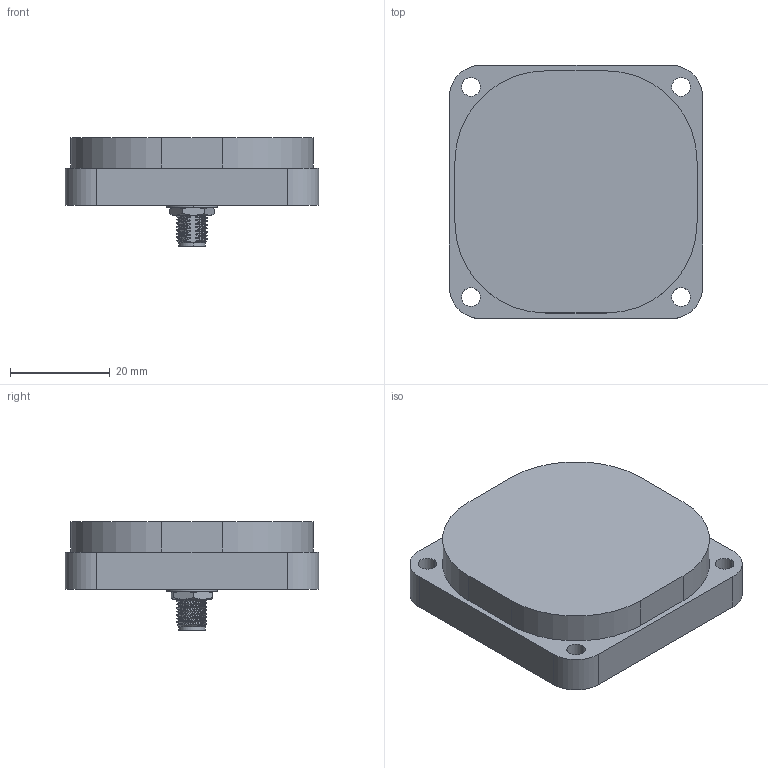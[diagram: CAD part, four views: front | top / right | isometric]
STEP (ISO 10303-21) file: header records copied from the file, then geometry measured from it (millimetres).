
FILE_DESCRIPTION (( 'STEP AP214' ), '1' );
FILE_NAME ('ANTCOM 2in Square, Flat Mount Config with Straight SMA.STEP', '2020-08-04T16:27:37', ( '' ), ( '' ), 'SwSTEP 2.0', 'SolidWorks 2013', '' );
FILE_SCHEMA (( 'AUTOMOTIVE_DESIGN' ));
Length unit declared in the file: millimetre
Products named in the file (1): ANTCOM 2in Square, Flat Mount Config with Straight SMA
Bounding box: 50.8 x 50.8 x 21.79 mm (x, y, z)
Surface area: 8050.9 mm2 (no closed solid volume)
Topology: 0 solids, 3 shells, 94 faces, 293 edges, 198 vertices
Faces by surface type: cylinder 38, plane 22, bspline 22, cone 12
Entity records: 9786 total; most frequent: CARTESIAN_POINT 6494, ORIENTED_EDGE 515, DIRECTION 323, EDGE_CURVE 293, VERTEX_POINT 198, B_SPLINE_CURVE_WITH_KNOTS 163, AXIS2_PLACEMENT_3D 120, EDGE_LOOP 108
